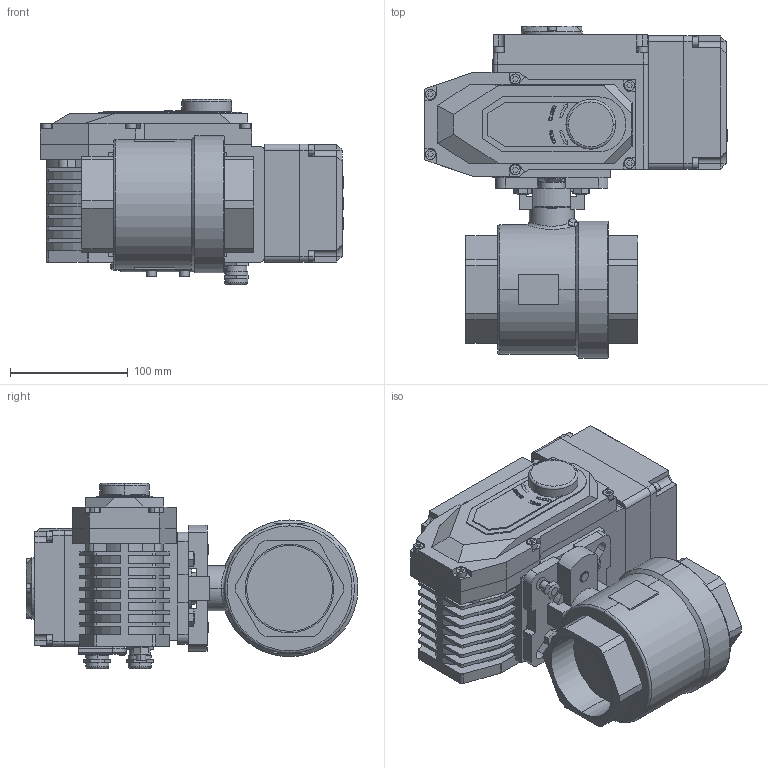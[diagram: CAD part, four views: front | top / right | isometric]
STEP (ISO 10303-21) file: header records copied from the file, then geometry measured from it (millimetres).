
FILE_DESCRIPTION((''),'2;1');
FILE_NAME('BV-21F_EAR_A_ASM','2025-03-02T',('AMD'),(''),'PRO/ENGINEER BY PARAMETRIC TECHNOLOGY CORPORATION, 2008020','PRO/ENGINEER BY PARAMETRIC TECHNOLOGY CORPORATION, 2008020','');
FILE_SCHEMA(('CONFIG_CONTROL_DESIGN'));
Length unit declared in the file: millimetre
Products named in the file (19): KORPUS_KRANA; SHAIBA_KRANA; VINT_KRANA; SB_KRAN_ASM; DET_1; V-11738-M5; V-11738-M4; DET_2; KREPLENIE; KLUCH; DET_3; G-5915-M8; ELECTROPRIVOD_ASM; DET_4; DET_5; DISPLAY_ASM; ELECTROPRIVOD_WITH_DISPLAY_ASM; B-7798-M8-20; BV-21F_EAR_A_ASM
Assembly tree (39 placements, depth 4):
  BV-21F_EAR_A_ASM
    SB_KRAN_ASM
      KORPUS_KRANA
      SHAIBA_KRANA
      VINT_KRANA  x2
    ELECTROPRIVOD_WITH_DISPLAY_ASM
      ELECTROPRIVOD_ASM
        DET_1
        V-11738-M5  x10
        V-11738-M4  x4
        DET_2
        KREPLENIE
        KLUCH
        DET_3
        G-5915-M8  x2
      DISPLAY_ASM
        DET_4
        DET_5
        V-11738-M5  x4
    B-7798-M8-20  x4
Bounding box: 257 x 281.5 x 157 mm (x, y, z)
Volume: 4046722.6 mm3; surface area: 442004.9 mm2
Topology: 35 solids, 81 shells, 2536 faces, 6765 edges, 4464 vertices
Faces by surface type: plane 1699, cylinder 426, extrusion 300, cone 87, torus 18, bspline 6
Entity records: 70196 total; most frequent: CARTESIAN_POINT 15135, ORIENTED_EDGE 11730, DIRECTION 10251, EDGE_CURVE 5917, VECTOR 4797, LINE 4497, VERTEX_POINT 3918, AXIS2_PLACEMENT_3D 2727
